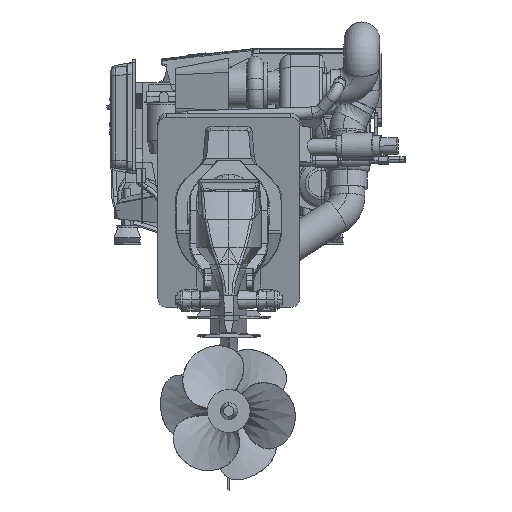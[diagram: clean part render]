
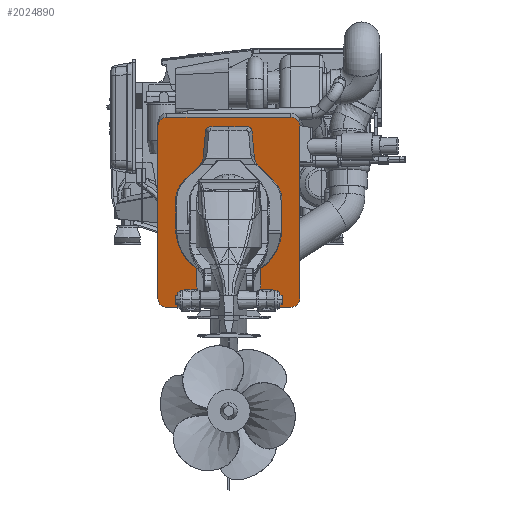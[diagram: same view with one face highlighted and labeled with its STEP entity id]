
A CAD part, top view. The second image highlights one B-rep face of the part: STEP entity #2024890.
In plain terms, the highlighted planar face has unit normal (0, -0.225, 0.974) as drawn and (0.99, 0, -0.139) by its records, which use the part's own axes.
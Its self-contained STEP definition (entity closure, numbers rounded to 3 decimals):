
#2022210=CARTESIAN_POINT('',(706.81,-168.271,
157.039));
#2022220=VERTEX_POINT('',#2022210);
#2022250=CARTESIAN_POINT('',(684.739,-168.271,0.));
#2022260=DIRECTION('',(0.139,0.,0.99));
#2022270=VECTOR('',#2022260,1.);
#2022280=LINE('',#2022250,#2022270);
#2022290=CARTESIAN_POINT('',(637.335,-168.271,
-337.303));
#2022300=VERTEX_POINT('',#2022290);
#2022310=EDGE_CURVE('',#2022300,#2022220,#2022280,.T.);
#2022470=CARTESIAN_POINT('',(710.345,0.,182.191));
#2022480=DIRECTION('',(0.,1.,0.));
#2022490=VECTOR('',#2022480,1.);
#2022500=LINE('',#2022470,#2022490);
#2022510=CARTESIAN_POINT('',(710.345,-142.871,
182.191));
#2022520=VERTEX_POINT('',#2022510);
#2022530=CARTESIAN_POINT('',(710.345,206.329,
182.191));
#2022540=VERTEX_POINT('',#2022530);
#2022550=EDGE_CURVE('',#2022520,#2022540,#2022500,.T.);
#2022870=CARTESIAN_POINT('',(684.739,231.729,0.));
#2022880=DIRECTION('',(-0.139,0.,-0.99));
#2022890=VECTOR('',#2022880,1.);
#2022900=LINE('',#2022870,#2022890);
#2022910=CARTESIAN_POINT('',(706.81,231.729,
157.039));
#2022920=VERTEX_POINT('',#2022910);
#2022930=CARTESIAN_POINT('',(637.335,231.729,
-337.303));
#2022940=VERTEX_POINT('',#2022930);
#2022950=EDGE_CURVE('',#2022920,#2022940,#2022900,.T.);
#2023310=CARTESIAN_POINT('',(633.8,206.329,
-362.456));
#2023320=VERTEX_POINT('',#2023310);
#2023490=CARTESIAN_POINT('',(633.8,-142.871,
-362.456));
#2023500=VERTEX_POINT('',#2023490);
#2023530=CARTESIAN_POINT('',(633.8,0.,-362.456));
#2023540=DIRECTION('',(0.,-1.,0.));
#2023550=VECTOR('',#2023540,1.);
#2023560=LINE('',#2023530,#2023550);
#2023570=EDGE_CURVE('',#2023320,#2023500,#2023560,.T.);
#2023750=CARTESIAN_POINT('',(706.81,206.329,
157.039));
#2023760=DIRECTION('',(-0.99,0.,0.139));
#2023770=DIRECTION('',(0.139,0.,0.99));
#2023780=AXIS2_PLACEMENT_3D('',#2023750,#2023760,#2023770);
#2023790=CIRCLE('',#2023780,25.4);
#2023800=EDGE_CURVE('',#2022540,#2022920,#2023790,.T.);
#2023990=CARTESIAN_POINT('',(706.81,-142.871,
157.039));
#2024000=DIRECTION('',(-0.99,0.,0.139));
#2024010=DIRECTION('',(0.139,0.,0.99));
#2024020=AXIS2_PLACEMENT_3D('',#2023990,#2024000,#2024010);
#2024030=CIRCLE('',#2024020,25.4);
#2024040=EDGE_CURVE('',#2022220,#2022520,#2024030,.T.);
#2024230=CARTESIAN_POINT('',(637.335,206.329,
-337.303));
#2024240=DIRECTION('',(-0.99,0.,0.139));
#2024250=DIRECTION('',(0.139,0.,0.99));
#2024260=AXIS2_PLACEMENT_3D('',#2024230,#2024240,#2024250);
#2024270=CIRCLE('',#2024260,25.4);
#2024280=EDGE_CURVE('',#2022940,#2023320,#2024270,.T.);
#2024390=CARTESIAN_POINT('',(637.335,-142.871,
-337.303));
#2024400=DIRECTION('',(-0.99,0.,0.139));
#2024410=DIRECTION('',(0.139,0.,0.99));
#2024420=AXIS2_PLACEMENT_3D('',#2024390,#2024400,#2024410);
#2024430=CIRCLE('',#2024420,25.4);
#2024440=EDGE_CURVE('',#2023500,#2022300,#2024430,.T.);
#2024740=CARTESIAN_POINT('',(633.73,232.229,
-362.951));
#2024750=DIRECTION('',(0.99,0.,-0.139));
#2024760=DIRECTION('',(-0.139,0.,-0.99));
#2024770=AXIS2_PLACEMENT_3D('',#2024740,#2024750,#2024760);
#2024780=PLANE('',#2024770);
#2024790=ORIENTED_EDGE('',*,*,#2022950,.F.);
#2024800=ORIENTED_EDGE('',*,*,#2024280,.F.);
#2024810=ORIENTED_EDGE('',*,*,#2023570,.F.);
#2024820=ORIENTED_EDGE('',*,*,#2024440,.F.);
#2024830=ORIENTED_EDGE('',*,*,#2022310,.F.);
#2024840=ORIENTED_EDGE('',*,*,#2024040,.F.);
#2024850=ORIENTED_EDGE('',*,*,#2022550,.F.);
#2024860=ORIENTED_EDGE('',*,*,#2023800,.F.);
#2024870=EDGE_LOOP('',(#2024860,#2024850,#2024840,#2024830,#2024820,
#2024810,#2024800,#2024790));
#2024880=FACE_OUTER_BOUND('',#2024870,.T.);
#2024890=ADVANCED_FACE('',(#2024880),#2024780,.T.);
